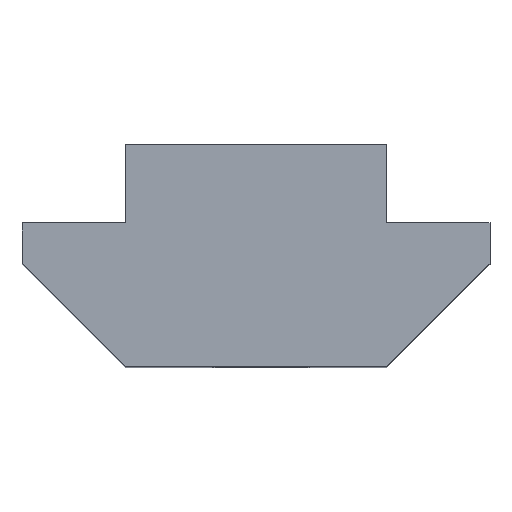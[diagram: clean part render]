
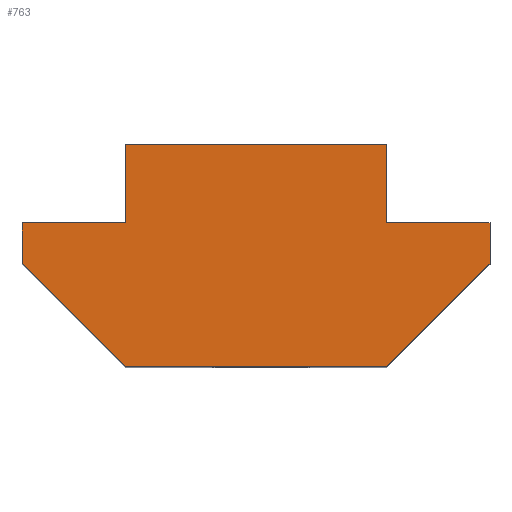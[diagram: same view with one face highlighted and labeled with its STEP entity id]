
A CAD part, top view. The second image highlights one B-rep face of the part: STEP entity #763.
In plain terms, the highlighted planar face has unit normal (0, 0, 1).
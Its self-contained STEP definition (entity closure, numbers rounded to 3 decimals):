
#27=PLANE('',#819);
#69=FACE_OUTER_BOUND('',#111,.T.);
#111=EDGE_LOOP('',(#679,#680,#681,#682,#683,#684,#685,#686,#687,#688));
#199=LINE('',#2893,#253);
#202=LINE('',#2900,#256);
#206=LINE('',#2907,#260);
#209=LINE('',#2913,#263);
#212=LINE('',#2919,#266);
#215=LINE('',#2925,#269);
#218=LINE('',#2931,#272);
#221=LINE('',#2937,#275);
#224=LINE('',#2943,#278);
#226=LINE('',#2946,#280);
#253=VECTOR('',#909,1000.);
#256=VECTOR('',#916,1000.);
#260=VECTOR('',#922,1000.);
#263=VECTOR('',#927,1000.);
#266=VECTOR('',#932,1000.);
#269=VECTOR('',#937,1000.);
#272=VECTOR('',#942,1000.);
#275=VECTOR('',#947,1000.);
#278=VECTOR('',#952,1000.);
#280=VECTOR('',#956,1000.);
#339=VERTEX_POINT('',#2890);
#340=VERTEX_POINT('',#2892);
#342=VERTEX_POINT('',#2899);
#344=VERTEX_POINT('',#2905);
#346=VERTEX_POINT('',#2911);
#348=VERTEX_POINT('',#2917);
#350=VERTEX_POINT('',#2923);
#352=VERTEX_POINT('',#2929);
#354=VERTEX_POINT('',#2935);
#356=VERTEX_POINT('',#2941);
#443=EDGE_CURVE('',#340,#339,#199,.T.);
#446=EDGE_CURVE('',#342,#340,#202,.T.);
#450=EDGE_CURVE('',#339,#344,#206,.T.);
#453=EDGE_CURVE('',#344,#346,#209,.T.);
#456=EDGE_CURVE('',#346,#348,#212,.T.);
#459=EDGE_CURVE('',#348,#350,#215,.T.);
#462=EDGE_CURVE('',#350,#352,#218,.T.);
#465=EDGE_CURVE('',#352,#354,#221,.T.);
#468=EDGE_CURVE('',#354,#356,#224,.T.);
#470=EDGE_CURVE('',#356,#342,#226,.T.);
#679=ORIENTED_EDGE('',*,*,#446,.T.);
#680=ORIENTED_EDGE('',*,*,#443,.T.);
#681=ORIENTED_EDGE('',*,*,#450,.T.);
#682=ORIENTED_EDGE('',*,*,#453,.T.);
#683=ORIENTED_EDGE('',*,*,#456,.T.);
#684=ORIENTED_EDGE('',*,*,#459,.T.);
#685=ORIENTED_EDGE('',*,*,#462,.T.);
#686=ORIENTED_EDGE('',*,*,#465,.T.);
#687=ORIENTED_EDGE('',*,*,#468,.T.);
#688=ORIENTED_EDGE('',*,*,#470,.T.);
#763=ADVANCED_FACE('',(#69),#27,.T.);
#819=AXIS2_PLACEMENT_3D('',#2947,#957,#958);
#909=DIRECTION('',(1.,0.,0.));
#916=DIRECTION('',(0.707,-0.707,0.));
#922=DIRECTION('',(0.707,0.707,0.));
#927=DIRECTION('',(0.,1.,0.));
#932=DIRECTION('',(-1.,0.,0.));
#937=DIRECTION('',(0.,1.,0.));
#942=DIRECTION('',(-1.,0.,0.));
#947=DIRECTION('',(0.,-1.,0.));
#952=DIRECTION('',(-1.,0.,0.));
#956=DIRECTION('',(0.,-1.,0.));
#957=DIRECTION('center_axis',(0.,0.,1.));
#958=DIRECTION('ref_axis',(1.,0.,0.));
#2890=CARTESIAN_POINT('',(5.,0.,9.));
#2892=CARTESIAN_POINT('',(-5.,0.,9.));
#2893=CARTESIAN_POINT('',(-5.,0.,9.));
#2899=CARTESIAN_POINT('',(-8.95,3.95,9.));
#2900=CARTESIAN_POINT('',(-8.95,3.95,9.));
#2905=CARTESIAN_POINT('',(8.95,3.95,9.));
#2907=CARTESIAN_POINT('',(5.,0.,9.));
#2911=CARTESIAN_POINT('',(8.95,5.5,9.));
#2913=CARTESIAN_POINT('',(8.95,3.95,9.));
#2917=CARTESIAN_POINT('',(5.,5.5,9.));
#2919=CARTESIAN_POINT('',(8.95,5.5,9.));
#2923=CARTESIAN_POINT('',(5.,8.5,9.));
#2925=CARTESIAN_POINT('',(5.,5.5,9.));
#2929=CARTESIAN_POINT('',(-5.,8.5,9.));
#2931=CARTESIAN_POINT('',(5.,8.5,9.));
#2935=CARTESIAN_POINT('',(-5.,5.5,9.));
#2937=CARTESIAN_POINT('',(-5.,8.5,9.));
#2941=CARTESIAN_POINT('',(-8.95,5.5,9.));
#2943=CARTESIAN_POINT('',(-5.,5.5,9.));
#2946=CARTESIAN_POINT('',(-8.95,5.5,9.));
#2947=CARTESIAN_POINT('Origin',(0.,0.,9.));
